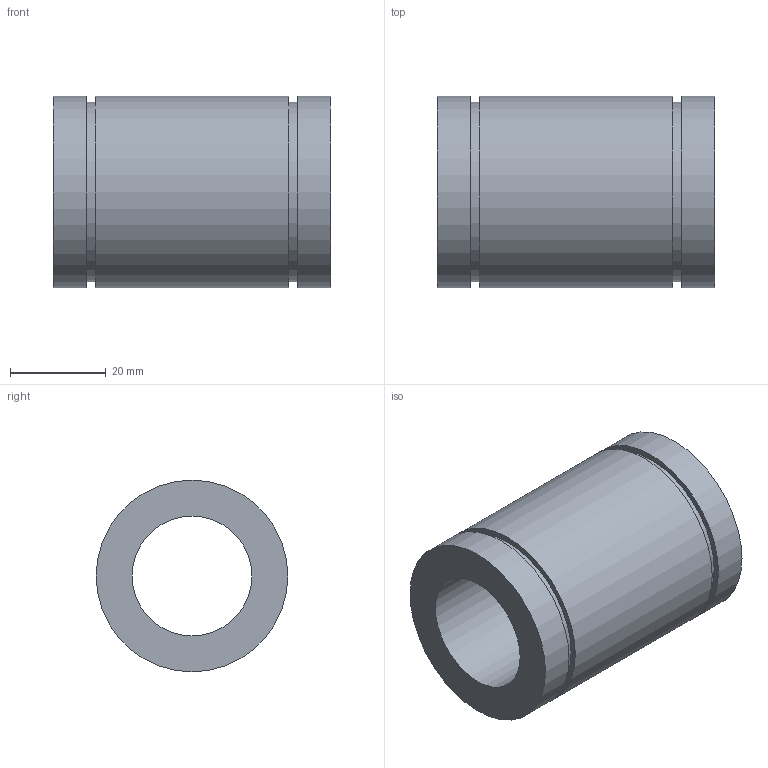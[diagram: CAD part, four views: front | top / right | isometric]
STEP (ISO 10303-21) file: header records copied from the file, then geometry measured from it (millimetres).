
FILE_DESCRIPTION( ( 'STEP AP203' ), '1' );
FILE_NAME( 'p:/temp/worker_102/temp/exporttempdir_4024_430_Hneb7/format_0/LME25UU.stp', '2020-04-29T03:07:07', ( 'License CC BY-ND 4.0' ), ( 'CADENAS' ), ' ', 'PARTsolutions', ' ' );
FILE_SCHEMA( ( 'CONFIG_CONTROL_DESIGN' ) );
Length unit declared in the file: millimetre
Products named in the file (1): _LME25UU
Bounding box: 58 x 40 x 40 mm (x, y, z)
Volume: 43851.2 mm3; surface area: 13955 mm2
Topology: 1 solids, 1 shells, 12 faces, 18 edges, 12 vertices
Faces by surface type: plane 6, cylinder 6
Full cylindrical faces by diameter (mm): 25 x1, 37.5 x2, 40 x3
Entity records: 292 total; most frequent: DIRECTION 50, CARTESIAN_POINT 37, AXIS2_PLACEMENT_3D 25, EDGE_LOOP 24, ORIENTED_EDGE 24, FACE_OUTER_BOUND 18, ADVANCED_FACE 12, EDGE_CURVE 12
